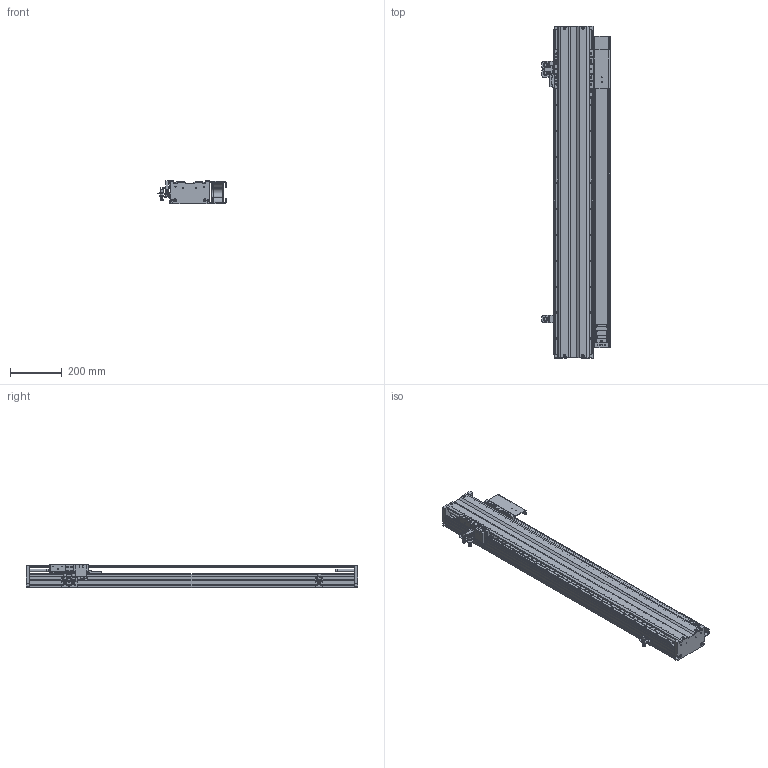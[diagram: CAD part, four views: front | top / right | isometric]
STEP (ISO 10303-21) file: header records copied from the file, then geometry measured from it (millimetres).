
FILE_DESCRIPTION(/* description */ ('','CAx-IF Rec.Pracs.---Representation and Presentation of Product Manufacturing Information (PMI)---4.0---2014-10-13'),/* implementation_level */ '2;1');
FILE_NAME(/* name */ 'C:\DESKTOP\홈페이지용 엔코더 3D 데이타 및 사진관련 자료\Linear Motor\SCMI L-150(MI)\SCMI K-150(MI).stp',/* time_stamp */ '2023-06-06T00:52:38+08:00',/* author */ ('hnckhn'),/* organization */ (''),/* preprocessor_version */ 'ST-DEVELOPER v18.1',/* originating_system */ 'Autodesk Inventor 2021',/* authorisation */ '');
FILE_SCHEMA (('AP242_MANAGED_MODEL_BASED_3D_ENGINEERING_MIM_LF { 1 0 10303 442 1 1 4 }'));
Products named in the file (47): LINEAR_150_ORIGIN; BASE_PLATE_150-01; SR15W16020 Track-01; SLIDER; SLIDER_BASE_MITSUBISHI; SR15WSSPB1021B1 Slide15-150; BKT_850_04; BKT_850_08; SCALE_SENSOR_150_Rev01; BKT_150_02; BKT_150_09; BKT_150_08; AK_MS15; lm-h3p3a-12p-css0; CABLE_CHAIN_BKT_001; TOP_COVER_150_1280; SCALE_001-01; END_COVER; SHAFT_850; SHAFT_CAP_850; LM-H3S30-768-CSS0-S; LM-H3-30-768-CSS0_MAGNET_BASE; LM-H3-30-768-CSS0_MAGNET_N45SH; LM-H3-30-786-CSS0_MAGNET_COVER_SUS; LM-H3S30-384-CSS0-S; LM-H3-30-384-CSS0_MAGNET_BASE; LM-H3-30-384-CSS0_MAGNET_N45SH; LM-H3-30-384-CSS0_MAGNET_COVER_SUS; Linear_Manet_Sensor; Linear_Rail; ENC-LKE51; Base1; 솔리드2; 솔리드5; 솔리드4; 솔리드3; LSMU150-01_1; Linear_Magnet_Sensor_LMF150l; Linear_Magnet_Sensor_LMF150l_P1; CABLE_CHAIN_BKT_150_002-01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
Assembly tree (112 placements, depth 4):
  LINEAR_150_ORIGIN
    BASE_PLATE_150-01
    SR15W16020 Track-01  x2
    SLIDER
      SLIDER_BASE_MITSUBISHI
      SR15WSSPB1021B1 Slide15-150  x4
      BKT_850_04
      BKT_850_08
      SCALE_SENSOR_150_Rev01
        BKT_150_02
        BKT_150_09
        BKT_150_08
        AK_MS15
      lm-h3p3a-12p-css0
      CABLE_CHAIN_BKT_001
    TOP_COVER_150_1280
    SCALE_001-01
    END_COVER  x2
    SHAFT_850  x2
    SHAFT_CAP_850  x2
    LM-H3S30-768-CSS0-S
      LM-H3-30-768-CSS0_MAGNET_BASE
      LM-H3-30-768-CSS0_MAGNET_N45SH  x32
      LM-H3-30-786-CSS0_MAGNET_COVER_SUS
    LM-H3S30-384-CSS0-S
      LM-H3-30-384-CSS0_MAGNET_BASE
      LM-H3-30-384-CSS0_MAGNET_N45SH  x16
      LM-H3-30-384-CSS0_MAGNET_COVER_SUS
    Linear_Manet_Sensor
      Linear_Rail
    ENC-LKE51
      Base1
      솔리드2
      솔리드5
      솔리드4
      솔리드3
      LSMU150-01_1
    Linear_Magnet_Sensor_LMF150l
    Linear_Magnet_Sensor_LMF150l_P1
    CABLE_CHAIN_BKT_150_002-01
    chain_hsp0250-35_28r_1175l-pos0
    M4_T-NUT_150  x10
    IME12-##B###C#K-S249933  x3
      Kopie von HUELSE_M12-B-Kurz-Stecker.01^3D-MARKETINGMODELL_S249933
      Kopie von MUTTER-M12-1-_-.02^3D-MARKETINGMODELL_S249933
      Kopie von MUTTER-M12-1-_-^3D-MARKETINGMODELL_S249933
    LIMITS_SENSOR_BKT_150  x3
Bounding box: 262.5 x 1280 x 91.1 mm (x, y, z)
Volume: 7327547.4 mm3; surface area: 2784235.4 mm2
Topology: 244 solids, 244 shells, 6363 faces, 18532 edges, 14588 vertices
Faces by surface type: plane 4105, cylinder 1421, bspline 482, cone 238, sphere 116, torus 1
Full cylindrical faces by diameter (mm): 0.122 x3, 0.4 x2, 0.5 x1, 2.459 x20, 2.5 x2, 3 x13, 3.2 x2, 3.242 x166, 3.4 x2, 3.5 x44, 4 x8, 4.134 x22, 4.2 x1, 4.3 x1, 4.5 x44, 4.917 x24, 5 x16, 5.304 x1, 5.5 x13, 5.8 x48, 6 x42, 6.5 x2, 6.6 x4, 6.647 x8, 8 x16, 8.2 x1, 9 x6, 9.2 x8, 9.5 x3, 10 x8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
Entity records: 193372 total; most frequent: CARTESIAN_POINT 62365, ORIENTED_EDGE 25556, DIRECTION 25147, EDGE_CURVE 12778, LINE 8553, VECTOR 8553, VERTEX_POINT 8460, AXIS2_PLACEMENT_3D 8297
